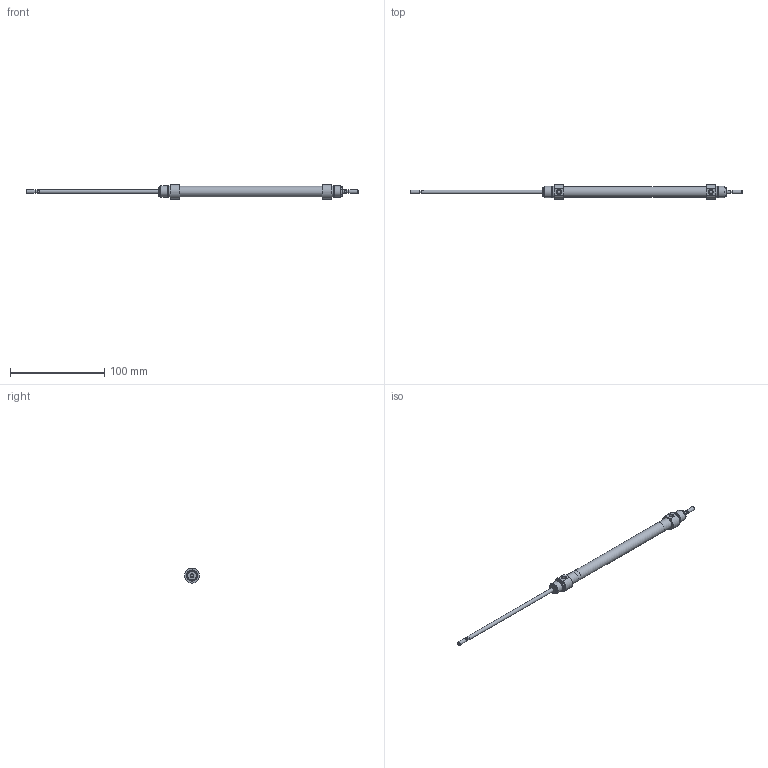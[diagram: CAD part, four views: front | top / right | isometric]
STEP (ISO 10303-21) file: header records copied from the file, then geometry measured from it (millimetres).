
FILE_DESCRIPTION( ( 'STEP AP203' ), '1' );
FILE_NAME( '//expscmdclustefs.cadenas.external/client_exchange/iodir/jobs/output/wkb68273228_no0/STEP/M101-010-0125--__0__2_03.stp', ' ', ( ' ' ), ( ' ' ), 'PSStep 15.0.47', 'PARTsolutions', ' ' );
FILE_SCHEMA( ( 'CONFIG_CONTROL_DESIGN' ) );
Length unit declared in the file: millimetre
Products named in the file (3): M101-010-0125-- [0]; HI_M101-010-0125---[0]-z; HI_M101-010-0125---[0]-k
Assembly tree (2 placements, depth 2):
  M101-010-0125-- [0]
    HI_M101-010-0125---[0]-z
    HI_M101-010-0125---[0]-k
Bounding box: 352 x 15.77 x 14.87 mm (x, y, z)
Volume: 15068.8 mm3; surface area: 17542.3 mm2
Topology: 2 solids, 2 shells, 71 faces, 145 edges, 88 vertices
Faces by surface type: plane 32, cylinder 23, cone 14, torus 2
Full cylindrical faces by diameter (mm): 3.141 x2, 4 x6, 4.134 x2, 10 x2, 10.466 x4, 11.3 x1, 12 x4
Entity records: 1838 total; most frequent: CARTESIAN_POINT 358, DIRECTION 312, ORIENTED_EDGE 212, AXIS2_PLACEMENT_3D 140, EDGE_LOOP 120, EDGE_CURVE 106, FACE_OUTER_BOUND 94, VERTEX_POINT 82
